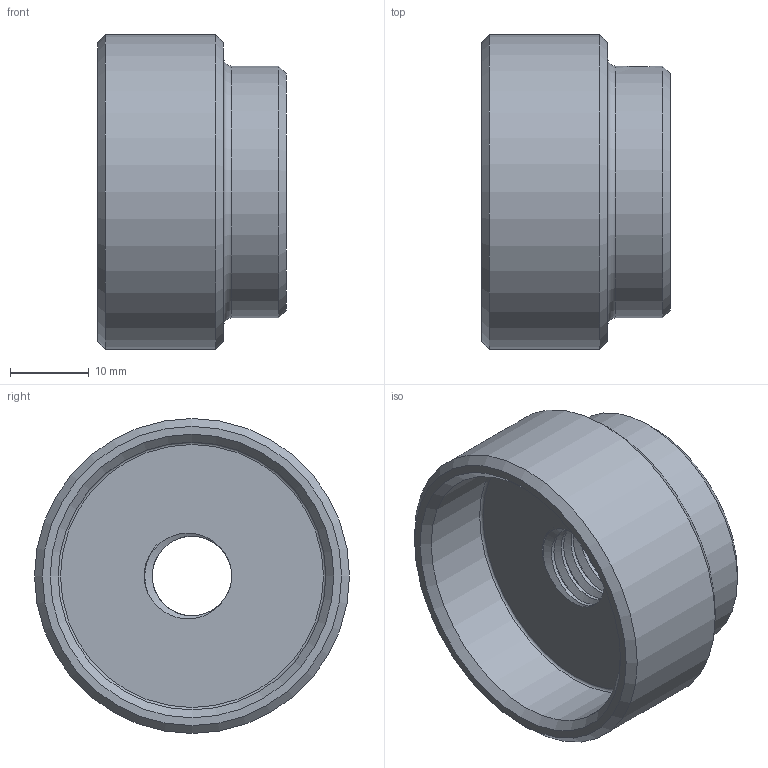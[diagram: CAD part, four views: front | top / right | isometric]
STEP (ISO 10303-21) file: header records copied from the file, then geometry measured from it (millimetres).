
FILE_DESCRIPTION(('STEP AP203'), '1');
FILE_NAME('À00080.1121', '2025-03-13T10:10:34', ('1'), (''), 'C3D Converter', 'C3D Toolkit', '');
FILE_SCHEMA(('CONFIG_CONTROL_DESIGN'));
Length unit declared in the file: millimetre
Bounding box: 24 x 40 x 40 mm (x, y, z)
Volume: 15799.9 mm3; surface area: 6756.3 mm2
Topology: 1 solids, 1 shells, 30 faces, 76 edges, 52 vertices
Faces by surface type: cylinder 10, bspline 9, cone 5, plane 4, torus 2
Full cylindrical faces by diameter (mm): 3.9 x1, 32 x1, 34 x1, 40 x1
Entity records: 8103 total; most frequent: CARTESIAN_POINT 7240, ORIENTED_EDGE 130, DIRECTION 77, EDGE_CURVE 65, B_SPLINE_CURVE_WITH_KNOTS 48, VERTEX_POINT 48, EDGE_LOOP 45, AXIS2_PLACEMENT_3D 37
